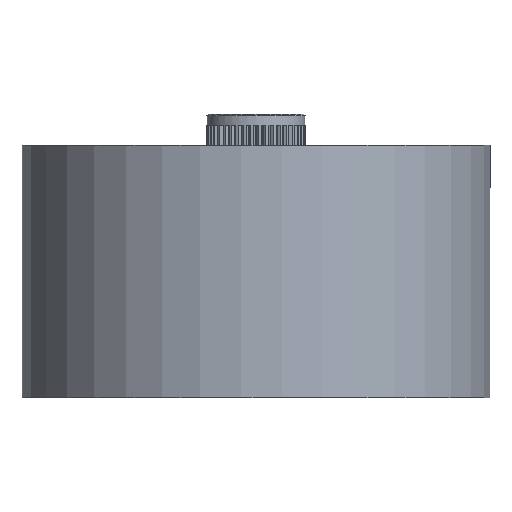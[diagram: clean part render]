
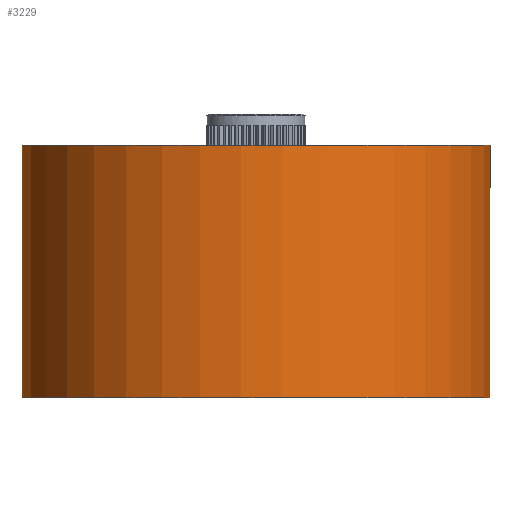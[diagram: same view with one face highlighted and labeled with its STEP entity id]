
A CAD part, front view. The second image highlights one B-rep face of the part: STEP entity #3229.
In plain terms, the highlighted cylindrical face has radius 19 mm (diameter 38 mm), a full revolution.
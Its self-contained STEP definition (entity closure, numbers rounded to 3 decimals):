
#2368=CARTESIAN_POINT('',(10.549,15.802,13.856));
#2369=VERTEX_POINT('',#2368);
#2370=CARTESIAN_POINT('',(0.,0.,13.856));
#2371=DIRECTION('',(0.0,0.0,-1.0));
#2372=DIRECTION('',(-0.555,-0.832,0.0));
#2373=AXIS2_PLACEMENT_3D('',#2370,#2371,#2372);
#2374=CIRCLE('',#2373,19.);
#2375=EDGE_CURVE('',#2369,#2369,#2374,.F.);
#3210=CARTESIAN_POINT('',(0.,0.,-6.604));
#3211=DIRECTION('',(0.0,0.0,1.0));
#3212=DIRECTION('',(-0.555,-0.832,0.0));
#3213=AXIS2_PLACEMENT_3D('',#3210,#3211,#3212);
#3214=CYLINDRICAL_SURFACE('',#3213,19.0);
#3215=ORIENTED_EDGE('',*,*,#2375,.F.);
#3216=EDGE_LOOP('',(#3215));
#3217=FACE_OUTER_BOUND('',#3216,.T.);
#3218=CARTESIAN_POINT('',(10.549,15.802,-6.604));
#3219=VERTEX_POINT('',#3218);
#3220=CARTESIAN_POINT('',(0.,0.,-6.604));
#3221=DIRECTION('',(0.0,0.0,1.0));
#3222=DIRECTION('',(-0.555,-0.832,0.0));
#3223=AXIS2_PLACEMENT_3D('',#3220,#3221,#3222);
#3224=CIRCLE('',#3223,19.);
#3225=EDGE_CURVE('',#3219,#3219,#3224,.F.);
#3226=ORIENTED_EDGE('',*,*,#3225,.F.);
#3227=EDGE_LOOP('',(#3226));
#3228=FACE_BOUND('',#3227,.T.);
#3229=ADVANCED_FACE('',(#3217,#3228),#3214,.T.);
